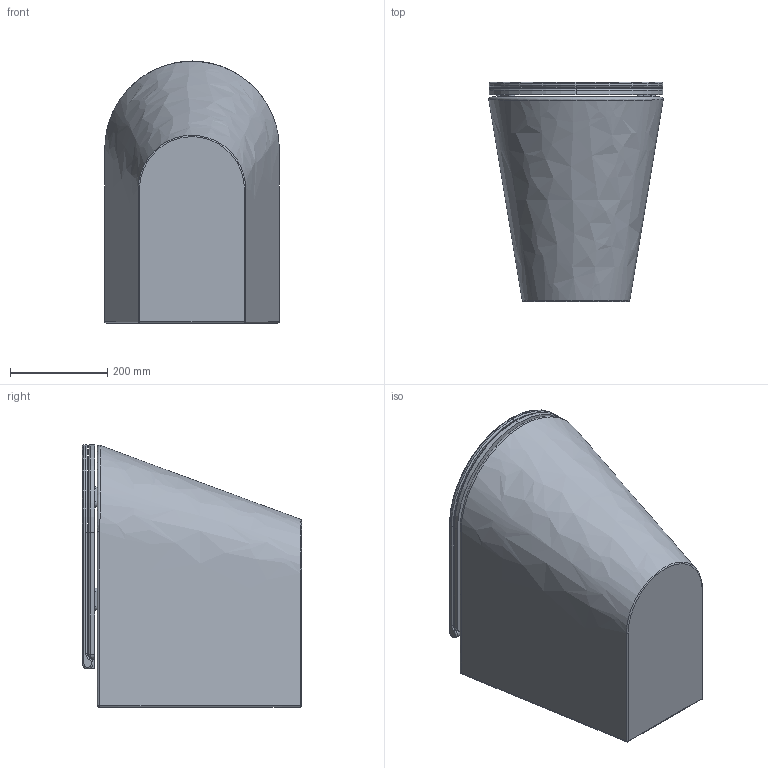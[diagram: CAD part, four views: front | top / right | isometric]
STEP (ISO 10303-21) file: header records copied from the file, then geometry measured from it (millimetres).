
FILE_DESCRIPTION (( 'STEP AP203' ), '1' );
FILE_NAME ('Assieme FORMAWC.STEP', '2018-09-07T12:37:54', ( '' ), ( '' ), 'SwSTEP 2.0', 'SolidWorks 2018', '' );
FILE_SCHEMA (( 'CONFIG_CONTROL_DESIGN' ));
Length unit declared in the file: millimetre
Products named in the file (3): FORMA WC; SEDILE FORMA; Assieme FORMAWC
Assembly tree (2 placements, depth 2):
  Assieme FORMAWC
    FORMA WC
    SEDILE FORMA
Bounding box: 358.19 x 450 x 538.57 mm (x, y, z)
Volume: 49861971.4 mm3; surface area: 1424029.9 mm2
Topology: 2 solids, 2 shells, 117 faces, 279 edges, 169 vertices
Faces by surface type: cylinder 44, plane 38, torus 19, bspline 13, sphere 2, cone 1
Full cylindrical faces by diameter (mm): 16 x2, 20 x2, 55 x1, 100 x1
Entity records: 5196 total; most frequent: CARTESIAN_POINT 2252, DIRECTION 580, ORIENTED_EDGE 534, EDGE_CURVE 267, AXIS2_PLACEMENT_3D 235, VERTEX_POINT 167, EDGE_LOOP 138, CIRCLE 126
